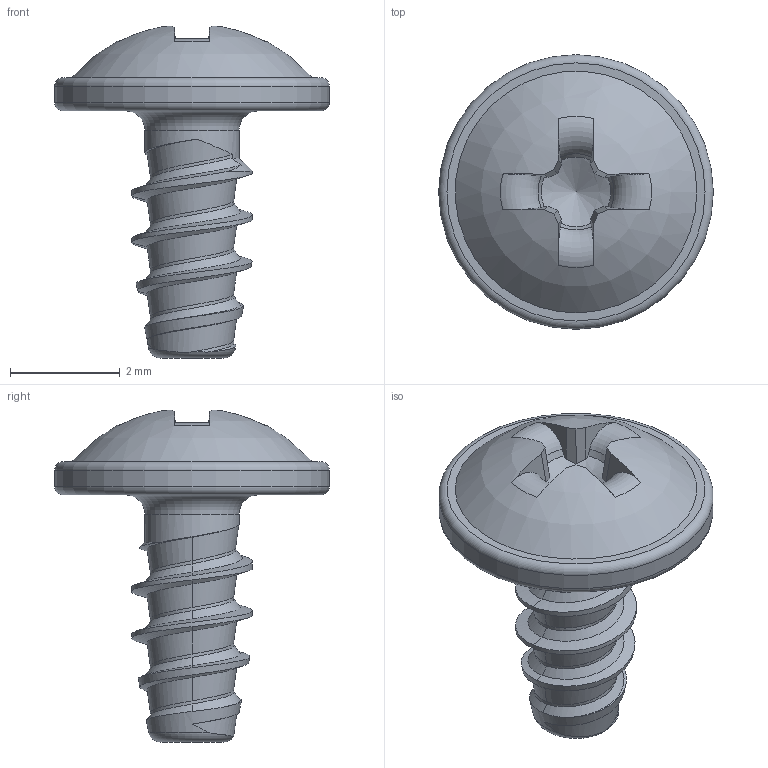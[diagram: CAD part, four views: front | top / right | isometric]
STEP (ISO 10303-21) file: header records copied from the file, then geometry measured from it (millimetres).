
FILE_DESCRIPTION(/* description */ (''),/* implementation_level */ '2;1');
FILE_NAME(/* name */ 'KN6031-STSplus-22x4.5-H1.step',/* time_stamp */ '2017-09-29T11:58:00+02:00',/* author */ (''),/* organization */ (''),/* preprocessor_version */ 'ST-DEVELOPER v16',/* originating_system */ 'SIEMENS PLM Software NX 10.0',/* authorisation */ '');
FILE_SCHEMA (('AUTOMOTIVE_DESIGN { 1 0 10303 214 3 1 1 1 }'));
Length unit declared in the file: millimetre
Products named in the file (1): KN6031-STSplus-22x4.5-H1
Bounding box: 5 x 5 x 6.04 mm (x, y, z)
Volume: 28.6 mm3; surface area: 81.7 mm2
Topology: 1 solids, 1 shells, 59 faces, 159 edges, 103 vertices
Faces by surface type: bspline 20, plane 19, torus 8, cone 7, cylinder 4, sphere 1
Full cylindrical faces by diameter (mm): 1.72 x1, 5 x1
Entity records: 3101 total; most frequent: CARTESIAN_POINT 1843, ORIENTED_EDGE 290, DIRECTION 188, EDGE_CURVE 145, VERTEX_POINT 98, AXIS2_PLACEMENT_3D 80, B_SPLINE_CURVE_WITH_KNOTS 77, EDGE_LOOP 68
